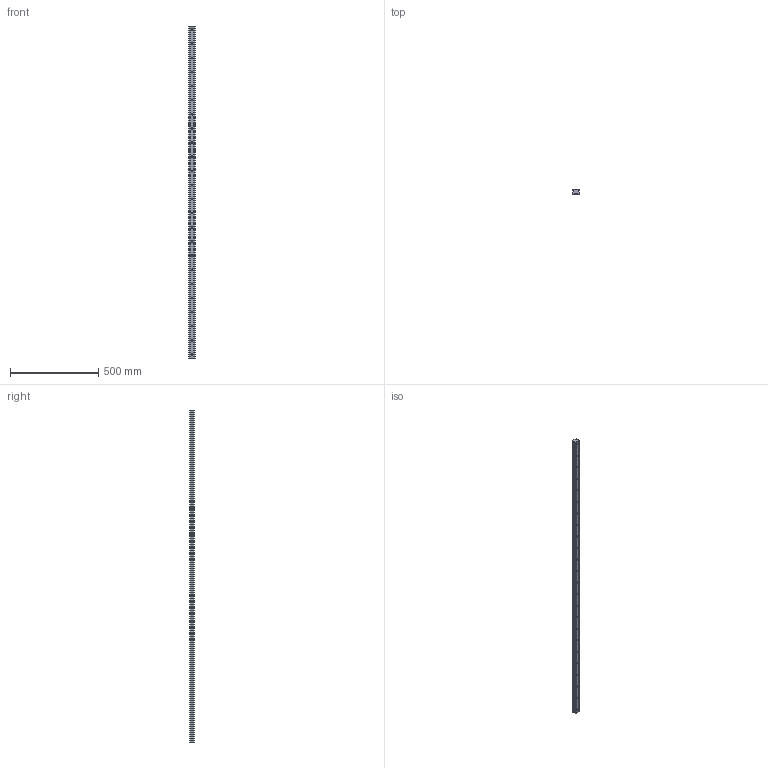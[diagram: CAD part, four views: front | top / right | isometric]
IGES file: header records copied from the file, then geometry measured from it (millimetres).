
Start section: SolidWorks IGES file using analytic representation for surfaces
Global section: file name: C:\Users\IanO\Desktop\Temp File\GENERAL\L1016_v2\L1016.RF35_v2\L1016.RF35_v2_20190612_IGES\L1016.RF35-1880.igs; native system: SolidWorks 2017; preprocessor: SolidWorks 2017; author: IanO; date: 190613.172855; units: millimetre
Bounding box: 34 x 26 x 1880 mm (x, y, z)
Surface area: 245560.1 mm2 (no closed solid volume)
Topology: 0 solids, 0 shells, 194 faces, 3048 edges, 3000 vertices
Faces by surface type: revolution 148, bspline 46
